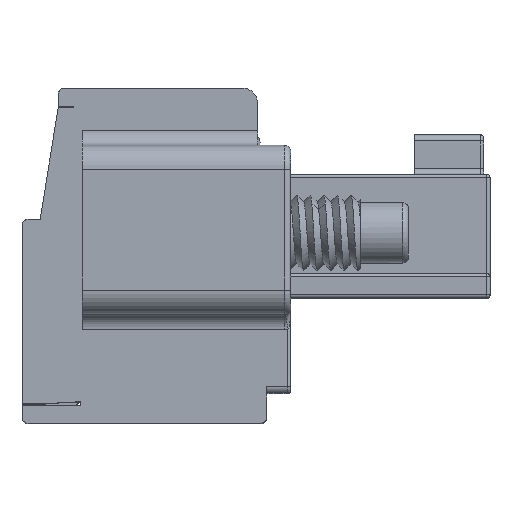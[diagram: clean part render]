
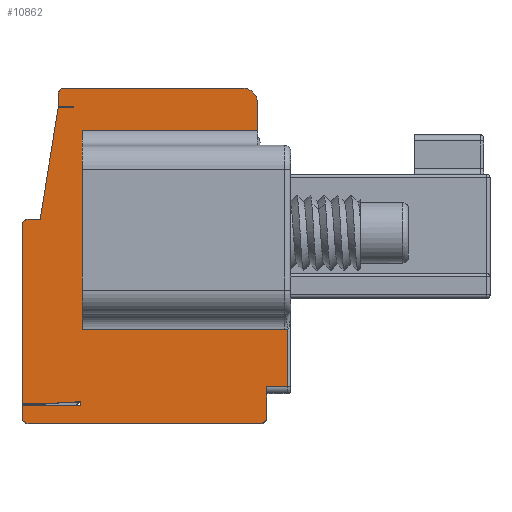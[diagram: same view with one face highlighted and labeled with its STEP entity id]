
A CAD part, top view. The second image highlights one B-rep face of the part: STEP entity #10862.
In plain terms, the highlighted planar face has unit normal (0, 0, 1).
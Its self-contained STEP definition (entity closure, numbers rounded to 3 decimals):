
#383=DIRECTION('',(0.,1.,0.));
#384=VECTOR('',#383,0.11);
#385=CARTESIAN_POINT('',(1.95,0.6,-4.6));
#386=LINE('',#385,#384);
#387=DIRECTION('',(-0.999,-0.052,0.));
#388=VECTOR('',#387,1.152);
#389=CARTESIAN_POINT('',(1.95,0.71,-4.6));
#390=LINE('',#389,#388);
#391=DIRECTION('',(-1.,0.,0.));
#392=VECTOR('',#391,0.8);
#393=CARTESIAN_POINT('',(0.8,0.65,-4.6));
#394=LINE('',#393,#392);
#395=DIRECTION('',(0.,1.,0.));
#396=VECTOR('',#395,5.9);
#397=CARTESIAN_POINT('',(0.,0.65,-4.6));
#398=LINE('',#397,#396);
#399=CARTESIAN_POINT('',(0.2,6.55,-4.6));
#400=DIRECTION('',(0.,0.,-1.));
#401=DIRECTION('',(-1.,0.,0.));
#402=AXIS2_PLACEMENT_3D('',#399,#400,#401);
#404=DIRECTION('',(1.,0.,0.));
#405=VECTOR('',#404,0.4);
#406=CARTESIAN_POINT('',(0.2,6.75,-4.6));
#407=LINE('',#406,#405);
#408=DIRECTION('',(0.16,0.987,0.));
#409=VECTOR('',#408,3.748);
#410=CARTESIAN_POINT('',(0.6,6.75,-4.6));
#411=LINE('',#410,#409);
#412=DIRECTION('',(1.,0.,0.));
#413=VECTOR('',#412,0.507);
#414=CARTESIAN_POINT('',(1.2,10.45,-4.6));
#415=LINE('',#414,#413);
#416=DIRECTION('',(0.16,0.987,0.));
#417=VECTOR('',#416,0.051);
#418=CARTESIAN_POINT('',(1.707,10.45,-4.6));
#419=LINE('',#418,#417);
#420=DIRECTION('',(-1.,0.,0.));
#421=VECTOR('',#420,0.515);
#422=CARTESIAN_POINT('',(1.715,10.5,-4.6));
#423=LINE('',#422,#421);
#424=DIRECTION('',(0.,1.,0.));
#425=VECTOR('',#424,0.4);
#426=CARTESIAN_POINT('',(1.2,10.5,-4.6));
#427=LINE('',#426,#425);
#428=CARTESIAN_POINT('',(1.4,10.9,-4.6));
#429=DIRECTION('',(0.,0.,-1.));
#430=DIRECTION('',(-1.,0.,0.));
#431=AXIS2_PLACEMENT_3D('',#428,#429,#430);
#433=DIRECTION('',(1.,0.,0.));
#434=VECTOR('',#433,5.9);
#435=CARTESIAN_POINT('',(1.4,11.1,-4.6));
#436=LINE('',#435,#434);
#437=CARTESIAN_POINT('',(7.3,10.6,-4.6));
#438=DIRECTION('',(0.,0.,-1.));
#439=DIRECTION('',(0.,1.,0.));
#440=AXIS2_PLACEMENT_3D('',#437,#438,#439);
#442=DIRECTION('',(0.,-1.,0.));
#443=VECTOR('',#442,0.9);
#444=CARTESIAN_POINT('',(7.8,10.6,-4.6));
#445=LINE('',#444,#443);
#446=DIRECTION('',(0.,-1.,0.));
#447=VECTOR('',#446,6.6);
#448=CARTESIAN_POINT('',(2.,9.7,-4.6));
#449=LINE('',#448,#447);
#450=CARTESIAN_POINT('',(8.7,3.8,-4.6));
#451=DIRECTION('',(0.,0.,1.));
#452=DIRECTION('',(0.,-1.,0.));
#453=AXIS2_PLACEMENT_3D('',#450,#451,#452);
#455=DIRECTION('',(0.,-1.,0.));
#456=VECTOR('',#455,1.);
#457=CARTESIAN_POINT('',(8.1,1.2,-4.6));
#458=LINE('',#457,#456);
#459=CARTESIAN_POINT('',(7.9,0.2,-4.6));
#460=DIRECTION('',(0.,0.,-1.));
#461=DIRECTION('',(1.,0.,0.));
#462=AXIS2_PLACEMENT_3D('',#459,#460,#461);
#464=DIRECTION('',(-1.,0.,0.));
#465=VECTOR('',#464,7.7);
#466=CARTESIAN_POINT('',(7.9,0.,-4.6));
#467=LINE('',#466,#465);
#468=CARTESIAN_POINT('',(0.2,0.2,-4.6));
#469=DIRECTION('',(0.,0.,-1.));
#470=DIRECTION('',(0.,-1.,0.));
#471=AXIS2_PLACEMENT_3D('',#468,#469,#470);
#473=DIRECTION('',(0.,1.,0.));
#474=VECTOR('',#473,0.4);
#475=CARTESIAN_POINT('',(0.,0.2,-4.6));
#476=LINE('',#475,#474);
#505=DIRECTION('',(-1.,0.,0.));
#506=VECTOR('',#505,1.95);
#507=CARTESIAN_POINT('',(1.95,0.6,-4.6));
#508=LINE('',#507,#506);
#3683=DIRECTION('',(1.,0.,0.));
#3684=VECTOR('',#3683,5.8);
#3685=CARTESIAN_POINT('',(2.,9.7,-4.6));
#3686=LINE('',#3685,#3684);
#3805=DIRECTION('',(0.,1.,0.));
#3806=VECTOR('',#3805,1.907);
#3807=CARTESIAN_POINT('',(8.8,1.2,-4.6));
#3808=LINE('',#3807,#3806);
#3828=DIRECTION('',(1.,0.,0.));
#3829=VECTOR('',#3828,0.7);
#3830=CARTESIAN_POINT('',(8.1,1.2,-4.6));
#3831=LINE('',#3830,#3829);
#3899=DIRECTION('',(-1.,0.,0.));
#3900=VECTOR('',#3899,6.7);
#3901=CARTESIAN_POINT('',(8.7,3.1,-4.6));
#3902=LINE('',#3901,#3900);
#8560=CARTESIAN_POINT('',(8.1,0.2,-4.6));
#8561=VERTEX_POINT('',#8560);
#8562=CARTESIAN_POINT('',(8.1,1.2,-4.6));
#8563=VERTEX_POINT('',#8562);
#8642=CARTESIAN_POINT('',(1.4,11.1,-4.6));
#8643=VERTEX_POINT('',#8642);
#8662=CARTESIAN_POINT('',(7.3,11.1,-4.6));
#8663=VERTEX_POINT('',#8662);
#8700=CARTESIAN_POINT('',(1.2,10.9,-4.6));
#8701=VERTEX_POINT('',#8700);
#8702=CARTESIAN_POINT('',(1.2,10.5,-4.6));
#8703=VERTEX_POINT('',#8702);
#8704=CARTESIAN_POINT('',(0.,0.6,-4.6));
#8705=VERTEX_POINT('',#8704);
#8742=CARTESIAN_POINT('',(0.,0.2,-4.6));
#8743=VERTEX_POINT('',#8742);
#8744=CARTESIAN_POINT('',(0.2,0.,-4.6));
#8745=VERTEX_POINT('',#8744);
#8746=CARTESIAN_POINT('',(7.9,0.,-4.6));
#8747=VERTEX_POINT('',#8746);
#8772=CARTESIAN_POINT('',(0.8,0.65,-4.6));
#8773=CARTESIAN_POINT('',(0.,0.65,-4.6));
#8774=VERTEX_POINT('',#8772);
#8775=VERTEX_POINT('',#8773);
#8776=CARTESIAN_POINT('',(0.,6.55,-4.6));
#8777=VERTEX_POINT('',#8776);
#8778=CARTESIAN_POINT('',(0.2,6.75,-4.6));
#8779=VERTEX_POINT('',#8778);
#8780=CARTESIAN_POINT('',(0.6,6.75,-4.6));
#8781=VERTEX_POINT('',#8780);
#8782=CARTESIAN_POINT('',(1.2,10.45,-4.6));
#8783=VERTEX_POINT('',#8782);
#8784=CARTESIAN_POINT('',(7.8,10.6,-4.6));
#8785=VERTEX_POINT('',#8784);
#8786=CARTESIAN_POINT('',(7.8,9.7,-4.6));
#8787=VERTEX_POINT('',#8786);
#8788=CARTESIAN_POINT('',(2.,9.7,-4.6));
#8789=VERTEX_POINT('',#8788);
#8790=CARTESIAN_POINT('',(2.,3.1,-4.6));
#8791=VERTEX_POINT('',#8790);
#8792=CARTESIAN_POINT('',(8.7,3.1,-4.6));
#8793=VERTEX_POINT('',#8792);
#8794=CARTESIAN_POINT('',(8.8,3.107,-4.6));
#8795=VERTEX_POINT('',#8794);
#8796=CARTESIAN_POINT('',(8.8,1.2,-4.6));
#8797=VERTEX_POINT('',#8796);
#10015=CARTESIAN_POINT('',(1.715,10.5,-4.6));
#10017=VERTEX_POINT('',#10015);
#10019=CARTESIAN_POINT('',(1.95,0.6,-4.6));
#10021=VERTEX_POINT('',#10019);
#10031=CARTESIAN_POINT('',(1.95,0.71,-4.6));
#10033=VERTEX_POINT('',#10031);
#10047=CARTESIAN_POINT('',(1.707,10.45,-4.6));
#10049=VERTEX_POINT('',#10047);
#10806=CARTESIAN_POINT('',(5.3,0.,-4.6));
#10807=DIRECTION('',(0.,0.,1.));
#10808=DIRECTION('',(1.,0.,0.));
#10809=AXIS2_PLACEMENT_3D('',#10806,#10807,#10808);
#10810=PLANE('',#10809);
#10812=ORIENTED_EDGE('',*,*,#10811,.F.);
#10814=ORIENTED_EDGE('',*,*,#10813,.T.);
#10816=ORIENTED_EDGE('',*,*,#10815,.T.);
#10818=ORIENTED_EDGE('',*,*,#10817,.T.);
#10820=ORIENTED_EDGE('',*,*,#10819,.T.);
#10822=ORIENTED_EDGE('',*,*,#10821,.T.);
#10824=ORIENTED_EDGE('',*,*,#10823,.T.);
#10826=ORIENTED_EDGE('',*,*,#10825,.T.);
#10828=ORIENTED_EDGE('',*,*,#10827,.T.);
#10829=ORIENTED_EDGE('',*,*,#10797,.T.);
#10830=ORIENTED_EDGE('',*,*,#10786,.T.);
#10831=ORIENTED_EDGE('',*,*,#10771,.T.);
#10832=ORIENTED_EDGE('',*,*,#10756,.T.);
#10833=ORIENTED_EDGE('',*,*,#10695,.T.);
#10835=ORIENTED_EDGE('',*,*,#10834,.T.);
#10837=ORIENTED_EDGE('',*,*,#10836,.T.);
#10839=ORIENTED_EDGE('',*,*,#10838,.F.);
#10841=ORIENTED_EDGE('',*,*,#10840,.T.);
#10843=ORIENTED_EDGE('',*,*,#10842,.F.);
#10845=ORIENTED_EDGE('',*,*,#10844,.T.);
#10847=ORIENTED_EDGE('',*,*,#10846,.F.);
#10849=ORIENTED_EDGE('',*,*,#10848,.F.);
#10851=ORIENTED_EDGE('',*,*,#10850,.T.);
#10853=ORIENTED_EDGE('',*,*,#10852,.T.);
#10855=ORIENTED_EDGE('',*,*,#10854,.T.);
#10857=ORIENTED_EDGE('',*,*,#10856,.T.);
#10859=ORIENTED_EDGE('',*,*,#10858,.T.);
#10860=EDGE_LOOP('',(#10812,#10814,#10816,#10818,#10820,#10822,#10824,#10826,
#10828,#10829,#10830,#10831,#10832,#10833,#10835,#10837,#10839,#10841,#10843,
#10845,#10847,#10849,#10851,#10853,#10855,#10857,#10859));
#10861=FACE_OUTER_BOUND('',#10860,.F.);
#10862=ADVANCED_FACE('',(#10861),#10810,.T.);
#403=CIRCLE('',#402,0.2);
#432=CIRCLE('',#431,0.2);
#441=CIRCLE('',#440,0.5);
#454=CIRCLE('',#453,0.7);
#463=CIRCLE('',#462,0.2);
#472=CIRCLE('',#471,0.2);
#10695=EDGE_CURVE('',#8643,#8663,#436,.T.);
#10756=EDGE_CURVE('',#8701,#8643,#432,.T.);
#10771=EDGE_CURVE('',#8703,#8701,#427,.T.);
#10786=EDGE_CURVE('',#10017,#8703,#423,.T.);
#10797=EDGE_CURVE('',#10049,#10017,#419,.T.);
#10811=EDGE_CURVE('',#10021,#8705,#508,.T.);
#10813=EDGE_CURVE('',#10021,#10033,#386,.T.);
#10815=EDGE_CURVE('',#10033,#8774,#390,.T.);
#10817=EDGE_CURVE('',#8774,#8775,#394,.T.);
#10819=EDGE_CURVE('',#8775,#8777,#398,.T.);
#10821=EDGE_CURVE('',#8777,#8779,#403,.T.);
#10823=EDGE_CURVE('',#8779,#8781,#407,.T.);
#10825=EDGE_CURVE('',#8781,#8783,#411,.T.);
#10827=EDGE_CURVE('',#8783,#10049,#415,.T.);
#10834=EDGE_CURVE('',#8663,#8785,#441,.T.);
#10836=EDGE_CURVE('',#8785,#8787,#445,.T.);
#10838=EDGE_CURVE('',#8789,#8787,#3686,.T.);
#10840=EDGE_CURVE('',#8789,#8791,#449,.T.);
#10842=EDGE_CURVE('',#8793,#8791,#3902,.T.);
#10844=EDGE_CURVE('',#8793,#8795,#454,.T.);
#10846=EDGE_CURVE('',#8797,#8795,#3808,.T.);
#10848=EDGE_CURVE('',#8563,#8797,#3831,.T.);
#10850=EDGE_CURVE('',#8563,#8561,#458,.T.);
#10852=EDGE_CURVE('',#8561,#8747,#463,.T.);
#10854=EDGE_CURVE('',#8747,#8745,#467,.T.);
#10856=EDGE_CURVE('',#8745,#8743,#472,.T.);
#10858=EDGE_CURVE('',#8743,#8705,#476,.T.);
